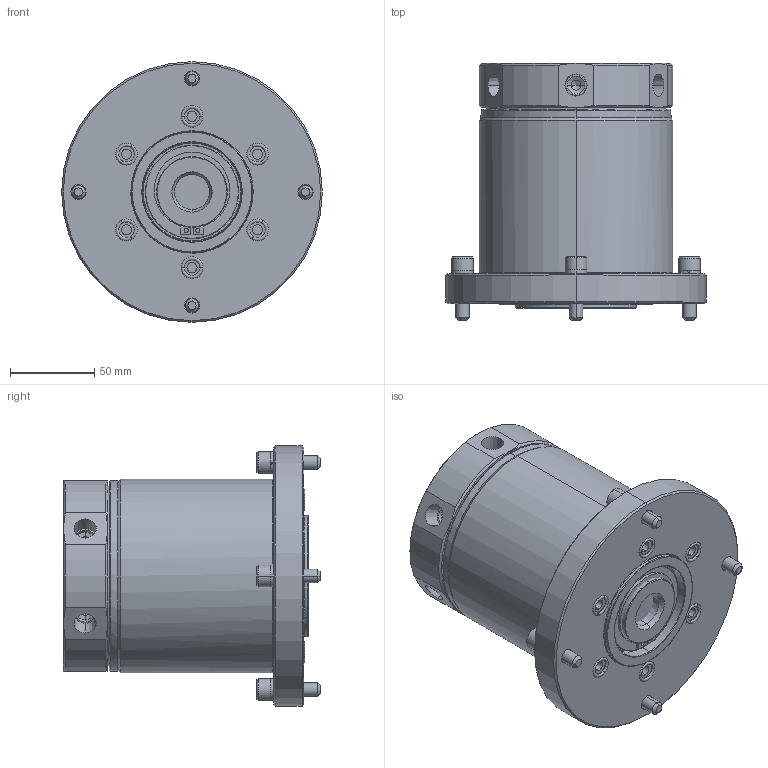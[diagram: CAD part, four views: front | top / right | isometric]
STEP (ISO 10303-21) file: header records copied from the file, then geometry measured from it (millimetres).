
FILE_DESCRIPTION((' '),'2;1');
FILE_NAME( 'TMB06-S-G-S.x_t.stp', '2024-09-03T08:15:24', (' '), ('--- Datakit www.datakit.com---'), ' Datakit CrossCadWare V2024.1 Dec 21 2023', 'Mastercam 2025', ' ');
FILE_SCHEMA(('AUTOMOTIVE_DESIGN { 1 0 10303 214 1 1 1 1 }'));
Length unit declared in the file: millimetre
Products named in the file (1): TMB06-S-G-S
Bounding box: 155 x 153 x 155 mm (x, y, z)
Volume: 1778815 mm3; surface area: 160760.2 mm2
Topology: 18 solids, 18 shells, 452 faces, 963 edges, 555 vertices
Faces by surface type: cylinder 156, cone 130, plane 128, torus 38
Entity records: 12659 total; most frequent: DIRECTION 2346, CARTESIAN_POINT 2275, ORIENTED_EDGE 1862, AXIS2_PLACEMENT_3D 1002, EDGE_CURVE 931, VERTEX_POINT 555, CIRCLE 533, EDGE_LOOP 520
